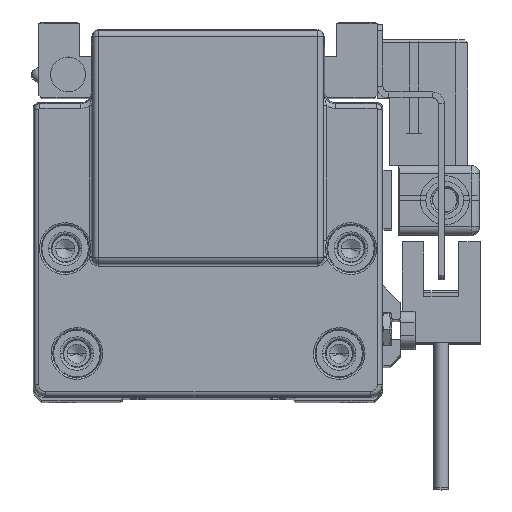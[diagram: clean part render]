
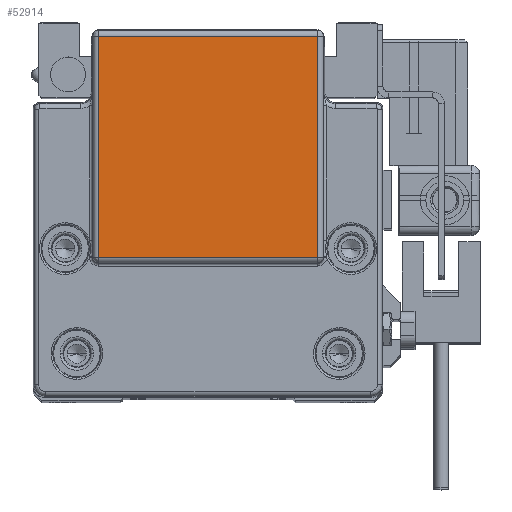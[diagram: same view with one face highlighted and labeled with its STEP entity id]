
A CAD part, top view. The second image highlights one B-rep face of the part: STEP entity #52914.
In plain terms, the highlighted planar face has unit normal (0, 0, 1) as drawn and (0, 0, -1) by its records, which use the part's own axes.
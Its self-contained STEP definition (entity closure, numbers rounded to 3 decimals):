
#3252 = VERTEX_POINT ( 'NONE', #21808 ) ;
#3883 = LINE ( 'NONE', #9265, #33631 ) ;
#4641 = LINE ( 'NONE', #22922, #52518 ) ;
#5938 = FACE_OUTER_BOUND ( 'NONE', #12095, .T. ) ;
#6226 = ORIENTED_EDGE ( 'NONE', *, *, #7367, .F. ) ;
#7367 = EDGE_CURVE ( 'NONE', #18933, #3252, #3883, .T. ) ;
#9265 = CARTESIAN_POINT ( 'NONE',  ( 19., 24.518, -143. ) ) ;
#11739 = VERTEX_POINT ( 'NONE', #41583 ) ;
#12095 = EDGE_LOOP ( 'NONE', ( #22354, #6226, #52072, #56396 ) ) ;
#13016 = VECTOR ( 'NONE', #54769, 1000. ) ;
#15829 = DIRECTION ( 'NONE',  ( 0., 1., 0. ) ) ;
#15934 = VECTOR ( 'NONE', #20380, 1000. ) ;
#18933 = VERTEX_POINT ( 'NONE', #44583 ) ;
#20380 = DIRECTION ( 'NONE',  ( 1., 0., 0. ) ) ;
#21808 = CARTESIAN_POINT ( 'NONE',  ( 18.808, 24.518, -143. ) ) ;
#22354 = ORIENTED_EDGE ( 'NONE', *, *, #41485, .F. ) ;
#22922 = CARTESIAN_POINT ( 'NONE',  ( -18.808, 31., -143. ) ) ;
#24219 = PLANE ( 'NONE',  #58281 ) ;
#30255 = CARTESIAN_POINT ( 'NONE',  ( -18.808, 62.447, -143. ) ) ;
#33631 = VECTOR ( 'NONE', #54870, 1000. ) ;
#41363 = VERTEX_POINT ( 'NONE', #30255 ) ;
#41485 = EDGE_CURVE ( 'NONE', #3252, #11739, #46341, .T. ) ;
#41525 = DIRECTION ( 'NONE',  ( 0., -1., 0. ) ) ;
#41583 = CARTESIAN_POINT ( 'NONE',  ( 18.808, 62.447, -143. ) ) ;
#43126 = CARTESIAN_POINT ( 'NONE',  ( 19., 24.5, -143. ) ) ;
#44583 = CARTESIAN_POINT ( 'NONE',  ( -18.808, 24.518, -143. ) ) ;
#46341 = LINE ( 'NONE', #49968, #13016 ) ;
#47638 = DIRECTION ( 'NONE',  ( 0., 0., -1. ) ) ;
#48762 = EDGE_CURVE ( 'NONE', #41363, #11739, #52193, .T. ) ;
#49968 = CARTESIAN_POINT ( 'NONE',  ( 18.808, 24.5, -143. ) ) ;
#50538 = EDGE_CURVE ( 'NONE', #41363, #18933, #4641, .T. ) ;
#52072 = ORIENTED_EDGE ( 'NONE', *, *, #50538, .F. ) ;
#52193 = LINE ( 'NONE', #53077, #15934 ) ;
#52518 = VECTOR ( 'NONE', #41525, 1000. ) ;
#52914 = ADVANCED_FACE ( 'NONE', ( #5938 ), #24219, .T. ) ;
#53077 = CARTESIAN_POINT ( 'NONE',  ( 19., 62.447, -143. ) ) ;
#54769 = DIRECTION ( 'NONE',  ( 0., 1., 0. ) ) ;
#54870 = DIRECTION ( 'NONE',  ( 1., 0., 0. ) ) ;
#56396 = ORIENTED_EDGE ( 'NONE', *, *, #48762, .T. ) ;
#58281 = AXIS2_PLACEMENT_3D ( 'NONE', #43126, #47638, #15829 ) ;
